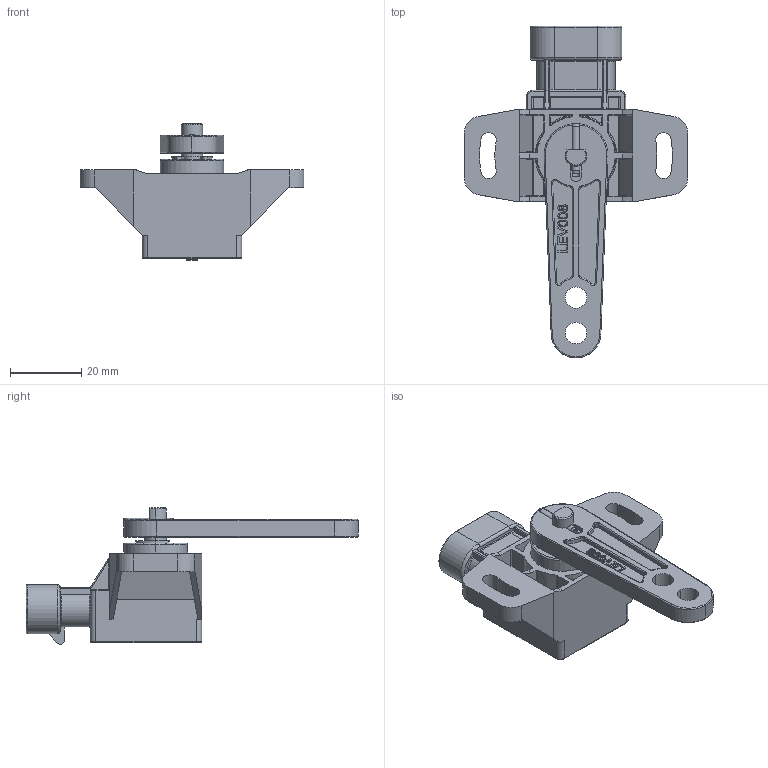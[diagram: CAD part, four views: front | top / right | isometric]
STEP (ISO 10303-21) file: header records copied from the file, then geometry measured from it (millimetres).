
FILE_DESCRIPTION (( 'STEP AP203' ), '1' );
FILE_NAME ('GR3PA S5E1MS xxx xxxx B0.STEP', '2024-12-19T15:21:06', ( '' ), ( '' ), 'SwSTEP 2.0', 'SolidWorks 2024', '' );
FILE_SCHEMA (( 'CONFIG_CONTROL_DESIGN' ));
Length unit declared in the file: millimetre
Products named in the file (1): GR3PA S5E1MS xxx xxxx B0
Bounding box: 63 x 93.5 x 38.47 mm (x, y, z)
Volume: 28642.5 mm3; surface area: 16354.9 mm2
Topology: 9 solids, 9 shells, 749 faces, 1853 edges, 1123 vertices
Faces by surface type: plane 272, cylinder 250, bspline 84, torus 70, sphere 40, cone 33
Entity records: 26861 total; most frequent: CARTESIAN_POINT 9567, ORIENTED_EDGE 3634, DIRECTION 3528, EDGE_CURVE 1817, AXIS2_PLACEMENT_3D 1303, VERTEX_POINT 1123, LINE 922, VECTOR 922
